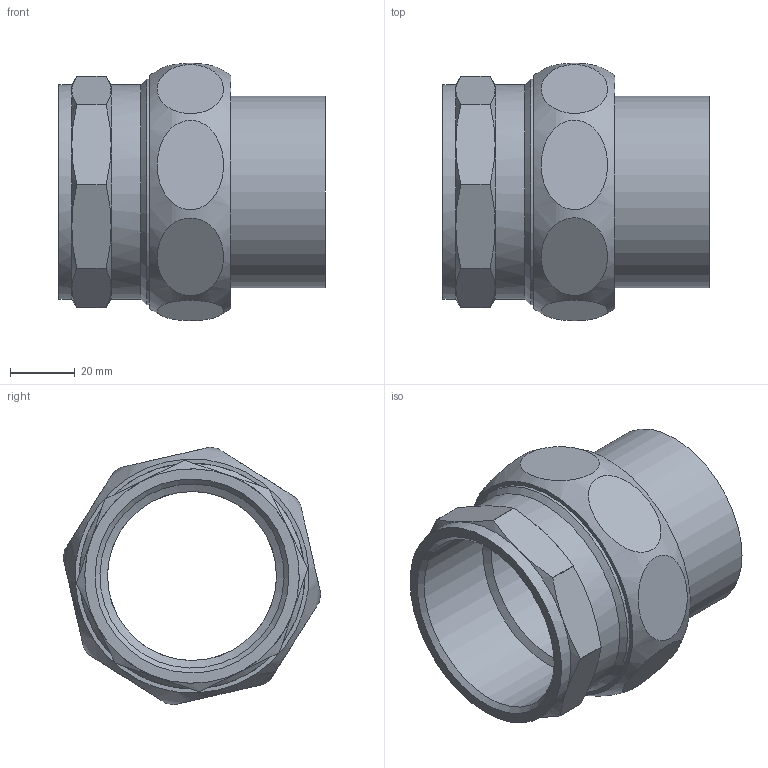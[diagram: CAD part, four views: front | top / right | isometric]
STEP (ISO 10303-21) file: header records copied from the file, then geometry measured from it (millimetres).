
FILE_DESCRIPTION((''),'2;1');
FILE_NAME('\\Lg50001\groups\SANHA Legnica\Engineering\Public\RYSUNKI\SANHA POLSKA\4330g\step\14330g_54-2(1).stp','2010-07-23T14:20:27',('pajchrowski'),(''),'Autodesk Inventor 2009','Autodesk Inventor 2009','');
FILE_SCHEMA(('AUTOMOTIVE_DESIGN { 1 0 10303 214 1 1 1 1 }'));
Length unit declared in the file: millimetre
Products named in the file (5): 14330g_54-2(1); 14372_54-238(1); 14374_238(0); 1DCU238; 14370g-2_238(0)
Assembly tree (4 placements, depth 2):
  14330g_54-2(1)
    14372_54-238(1)
    14374_238(0)
    1DCU238
    14370g-2_238(0)
Bounding box: 82 x 79.24 x 79.24 mm (x, y, z)
Volume: 102308 mm3; surface area: 51336.8 mm2
Topology: 4 solids, 4 shells, 71 faces, 142 edges, 89 vertices
Faces by surface type: plane 27, cylinder 21, cone 21, bspline 2
Full cylindrical faces by diameter (mm): 52 x2, 54 x1, 55 x1, 56.656 x1, 59 x1, 60.5 x1, 65 x1, 65.5 x1, 66 x2, 66.44 x1, 69.398 x1
Entity records: 3414 total; most frequent: CARTESIAN_POINT 1936, DIRECTION 296, ORIENTED_EDGE 236, AXIS2_PLACEMENT_3D 140, EDGE_CURVE 118, EDGE_LOOP 110, VERTEX_POINT 86, FACE_OUTER_BOUND 71
